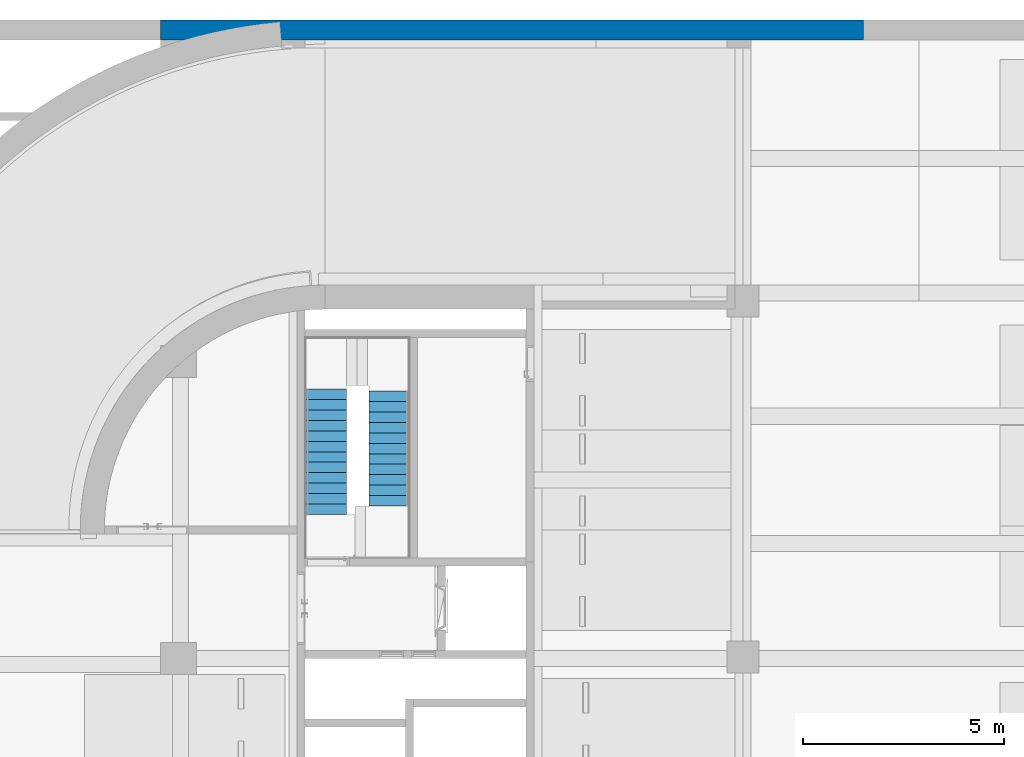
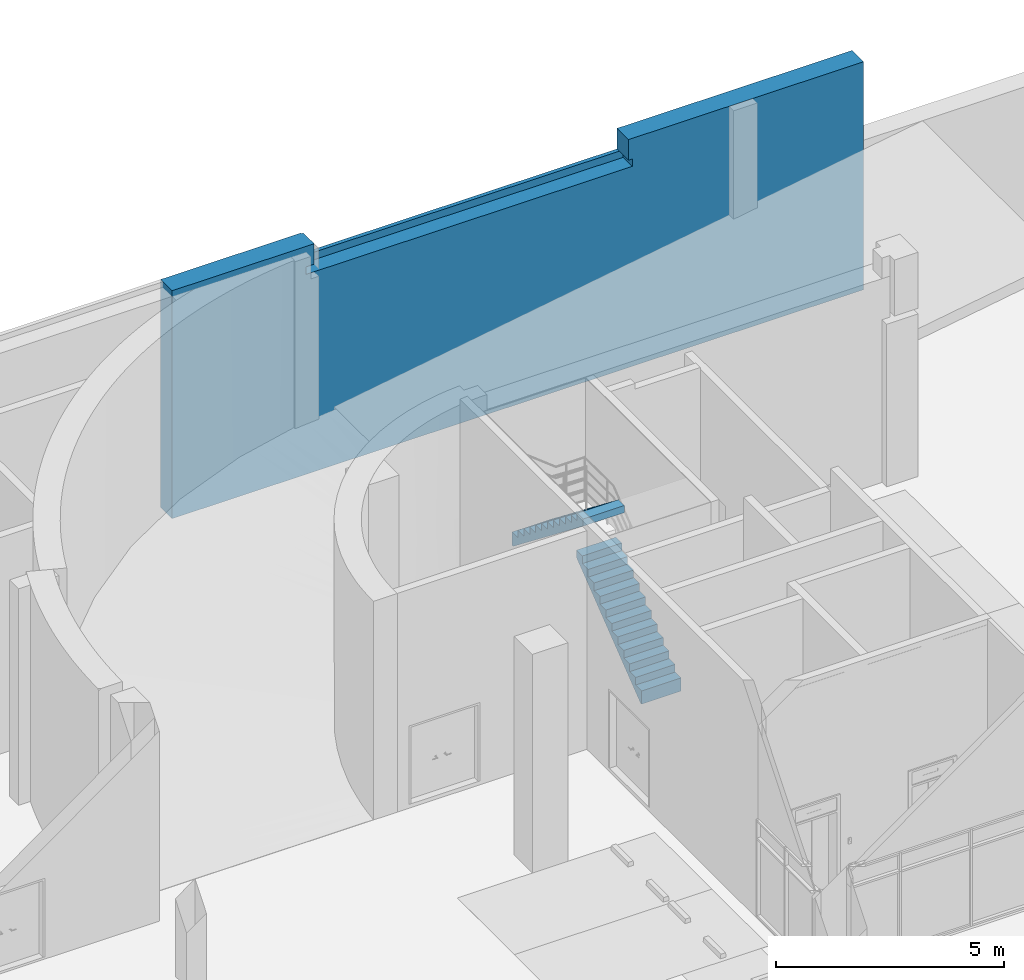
# One storey, part 25 of 29: 2 stair flights, 1 wall, 1 element without a shape of its own.
"""IFC2X3 building model written with IfcOpenShell, lengths in millimetres."""

from ifc_helpers import new_model, entity, si_unit, converted_unit, derived_unit, direction, frame, origin, place, context, subcontext, project, spatial, faceted_brep, material, layer, layer_set, type_object, element, aggregate, save


model = new_model("IFC2X3")

# Units and contexts
model_context = context("Model", 3, precision=0.01, world=origin(), true_north=direction((6.123031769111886e-17, 1.0)))
body_context = subcontext(model_context, "Body", "Model", "MODEL_VIEW")
ifc_project = project(units=[si_unit("LENGTHUNIT", "METRE", prefix="MILLI"), si_unit("AREAUNIT", "SQUARE_METRE"), si_unit("VOLUMEUNIT", "CUBIC_METRE"), converted_unit("PLANEANGLEUNIT", "DEGREE", entity("IfcRatioMeasure", 0.017453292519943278), si_unit("PLANEANGLEUNIT", "RADIAN"), dimensions=[0, 0, 0, 0, 0, 0, 0]), si_unit("MASSUNIT", "GRAM", prefix="KILO"), derived_unit("MASSDENSITYUNIT", [(si_unit("MASSUNIT", "GRAM", prefix="KILO"), 1), (si_unit("LENGTHUNIT", "METRE"), -3)]), derived_unit("MOMENTOFINERTIAUNIT", [(si_unit("LENGTHUNIT", "METRE"), 4)]), si_unit("TIMEUNIT", "SECOND"), si_unit("FREQUENCYUNIT", "HERTZ"), si_unit("THERMODYNAMICTEMPERATUREUNIT", "DEGREE_CELSIUS"), derived_unit("THERMALTRANSMITTANCEUNIT", [(si_unit("MASSUNIT", "GRAM", prefix="KILO"), 1), (si_unit("THERMODYNAMICTEMPERATUREUNIT", "KELVIN"), -1), (si_unit("TIMEUNIT", "SECOND"), -3)]), derived_unit("VOLUMETRICFLOWRATEUNIT", [(si_unit("LENGTHUNIT", "METRE"), 3), (si_unit("TIMEUNIT", "SECOND"), -1)]), derived_unit("MASSFLOWRATEUNIT", [(si_unit("MASSUNIT", "GRAM", prefix="KILO"), 1), (si_unit("TIMEUNIT", "SECOND"), -1)]), derived_unit("ROTATIONALFREQUENCYUNIT", [(si_unit("TIMEUNIT", "SECOND"), -1)]), si_unit("ELECTRICCURRENTUNIT", "AMPERE"), si_unit("ELECTRICVOLTAGEUNIT", "VOLT"), si_unit("POWERUNIT", "WATT"), si_unit("FORCEUNIT", "NEWTON", prefix="KILO"), si_unit("ILLUMINANCEUNIT", "LUX"), si_unit("LUMINOUSFLUXUNIT", "LUMEN"), si_unit("LUMINOUSINTENSITYUNIT", "CANDELA"), derived_unit("USERDEFINED", [(si_unit("MASSUNIT", "GRAM", prefix="KILO"), -1), (si_unit("LENGTHUNIT", "METRE"), -2), (si_unit("TIMEUNIT", "SECOND"), 3), (si_unit("LUMINOUSFLUXUNIT", "LUMEN"), 1)]), derived_unit("SOUNDPOWERUNIT", [(si_unit("MASSUNIT", "GRAM", prefix="KILO"), 1), (si_unit("LENGTHUNIT", "METRE"), 2), (si_unit("TIMEUNIT", "SECOND"), -3)]), derived_unit("SOUNDPRESSUREUNIT", [(si_unit("MASSUNIT", "GRAM", prefix="KILO"), 1), (si_unit("LENGTHUNIT", "METRE"), -1), (si_unit("TIMEUNIT", "SECOND"), -2)]), derived_unit("LINEARVELOCITYUNIT", [(si_unit("LENGTHUNIT", "METRE"), 1), (si_unit("TIMEUNIT", "SECOND"), -1)]), si_unit("PRESSUREUNIT", "PASCAL"), derived_unit("USERDEFINED", [(si_unit("LENGTHUNIT", "METRE"), -2), (si_unit("MASSUNIT", "GRAM", prefix="KILO"), 1), (si_unit("TIMEUNIT", "SECOND"), -2)]), derived_unit("LINEARFORCEUNIT", [(si_unit("MASSUNIT", "GRAM", prefix="KILO"), 1), (si_unit("LENGTHUNIT", "METRE"), 1), (si_unit("TIMEUNIT", "SECOND"), -2), (si_unit("LENGTHUNIT", "METRE"), -1)]), derived_unit("PLANARFORCEUNIT", [(si_unit("MASSUNIT", "GRAM", prefix="KILO"), 1), (si_unit("LENGTHUNIT", "METRE"), 1), (si_unit("TIMEUNIT", "SECOND"), -2), (si_unit("LENGTHUNIT", "METRE"), -2)])], contexts=[model_context])

# Site, building, storey
site_placement = place(None, frame((-14167.972527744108, -657.2125860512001, 0.0)))
site = spatial("IfcSite", under=ifc_project, at=site_placement, Name="Default", CompositionType="ELEMENT")
building_placement = place(site_placement, origin())
building = spatial("IfcBuilding", under=site, at=building_placement, Name="Sample Building", CompositionType="ELEMENT")
storey_placement = place(building_placement, frame((0.0, 0.0, -6100.0)))
storey = spatial("IfcBuildingStorey", under=building, at=storey_placement, Name="지하1층", CompositionType="ELEMENT", Elevation=-6099.999999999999)

# Wall
ifc_material = material(Name="KBIMS-콘크리트")
ifc_layer = layer(ifc_material, 500.00000000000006)
ifc_layer_set = layer_set([ifc_layer], Name="기본 벽:WA111-철근콘크리트구조 벽 500mm_BW4")
wall_type = type_object("IfcWallType", Name="기본 벽:WA111-철근콘크리트구조 벽 500mm_BW4", PredefinedType="STANDARD", material=ifc_layer_set)
wall_placement = place(storey_placement, frame((26667.97249113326, 35607.21230798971, 0.0)))
element("IfcWall", 1, at=wall_placement, inside=storey, type_object=wall_type, Name="기본 벽:WA111-철근콘크리트구조 벽 500mm_BW4", ObjectType="기본 벽:WA111-철근콘크리트구조 벽 500mm_BW4", context=body_context, shape_type="Brep", body=[
    faceted_brep([(17499.991307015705, -250.0, 0.0), (17499.991307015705, -250.0, 4000.0), (17499.991307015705, -250.0, 6100.0), (11550.0, -250.0, 6100.0), (11550.0, -250.0, 5550.0), (11650.0, -250.0, 5550.0), (11650.0, -250.0, 5350.0), (6575.273407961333, -250.0, 5350.0), (6175.273407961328, -250.0, 5350.0), (6099.97395765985, -250.0, 5350.0), (3599.973921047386, -250.0, 5350.0), (3398.153323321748, -250.0, 5350.0), (3398.1533233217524, -250.0, 5550.0), (3598.153323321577, -250.0, 5550.0), (3599.9912704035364, -250.0, 5550.0), (3599.9912704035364, -250.0, 6100.0), (3598.153323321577, -250.0, 6100.0), (0.0, -250.0, 6100.0), (0.0, -250.0, 5950.0), (0.0, -250.0, 0.0), (571.5442471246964, -250.0, 0.0), (3007.7081708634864, -250.0, 0.0), (3599.973921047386, -250.0, 0.0), (14099.973957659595, -250.0, 0.0), (14699.973957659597, -250.0, 0.0), (17499.991307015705, 250.0, 4000.0), (17499.991307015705, 250.0, 0.0), (0.0, 250.0, 0.0), (0.0, 250.0, 6100.0), (3550.0, 250.0, 6100.0), (3550.0, 250.0, 5550.0), (11550.0, 250.0, 5550.0), (11550.0, 250.0, 6100.0), (17499.991307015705, 250.0, 6100.0), (0.0, 149.99998715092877, 6100.0), (3550.0, 224.99998715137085, 5550.0), (3599.9912704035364, 224.99998715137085, 5550.0), (3599.9912704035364, 149.9999871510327, 5550.0), (11550.0, 149.9999871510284, 5550.0), (3599.9912704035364, 224.99998715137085, 6100.0), (3550.0, 224.99998715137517, 6100.0), (11550.0, 147.69999999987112, 5550.0), (11650.0, 149.9999871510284, 5350.0), (3398.1533233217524, 149.9999871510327, 5350.0), (3398.1533233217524, 149.9999871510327, 5550.0), (11650.0, 149.9999871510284, 5550.0)], [[[0, 1, 2, 3, 4, 5, 6, 7, 8, 9, 10, 11, 12, 13, 14, 15, 16, 17, 18, 19, 20, 21, 22, 23, 24]], [[25, 26, 27, 28, 29, 30, 31, 32, 33]], [[1, 0, 26, 25, 33, 2]], [[20, 19, 27, 26, 0, 24, 23, 22, 21]], [[18, 17, 34, 28, 27, 19]], [[2, 33, 32, 3]], [[31, 30, 35, 36, 37, 38]], [[16, 15, 39, 40, 29, 28, 34, 17]], [[4, 3, 32, 31, 38, 41]], [[15, 14, 37, 36, 39]], [[36, 35, 40, 39]], [[30, 29, 40, 35]], [[7, 6, 42, 43, 11, 10, 9, 8]], [[13, 12, 44, 37, 14]], [[6, 5, 45, 42]], [[12, 11, 43, 44]], [[38, 37, 44, 43, 42, 45]], [[5, 4, 41, 38, 45]]]),
])

# Stair, stair flights
stair_placement = place(storey_placement, origin())
stair = element("IfcStair", 2, at=stair_placement, inside=storey, Name="현장타설 계단:계단", ObjectType="현장타설 계단:ST111-철근콘크리트구조 계단 (U형)", ShapeType="NOTDEFINED")
stair_flight_type_1 = type_object("IfcStairFlightType", Name="일체형 계단진행:일체형 계단진행 150mm_철근콘크리트", PredefinedType="STRAIGHT")
stair_flight_1_placement = place(stair_placement, frame((31856.17253642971, 23757.212278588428, 0.0)))
stair_flight_1 = element("IfcStairFlight", 3, at=stair_flight_1_placement, type_object=stair_flight_type_1, material=ifc_material, Name="현장타설 계단:계단:5961117 Run 2", ObjectType="일체형 계단진행:일체형 계단진행 150mm_철근콘크리트", NumberOfRiser=12, NumberOfTreads=11, RiserHeight=0.6671041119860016, TreadLength=0.8530183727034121, context=body_context, shape_type="Brep", body=[
    faceted_brep([(1000.0, 260.0, 610.0), (0.0, 260.0, 610.0), (0.0, 51.68901629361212, 610.0), (0.0, 0.0, 610.0), (223.4889709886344, 0.0, 610.0), (1000.0, 0.0, 610.0), (1000.0, 51.68901629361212, 610.0), (0.0, 260.0, 419.5765385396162), (0.0, 51.68901629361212, 256.6666666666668), (0.0, 0.0, 256.6666666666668), (223.4889709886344, 0.0, 256.6666666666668), (1000.0, 0.0, 256.6666666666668), (1000.0, 0.0, 406.6666666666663), (1000.0, 51.689016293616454, 256.6666666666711), (1000.0, 260.0, 419.57653853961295), (0.0, 520.0, 813.3333333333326), (0.0, 260.0, 813.3333333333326), (1000.0, 260.0, 813.3333333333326), (1000.0, 520.0, 813.3333333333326), (0.0, 520.0, 622.9098718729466), (1000.0, 520.0, 622.9098718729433), (0.0, 780.0, 1016.6666666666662), (0.0, 520.0, 1016.6666666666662), (1000.0, 520.0, 1016.6666666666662), (1000.0, 780.0, 1016.6666666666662), (0.0, 780.0, 826.2432052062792), (1000.0, 780.0, 826.2432052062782), (0.0, 1040.0, 1220.0), (0.0, 780.0, 1220.0), (1000.0, 780.0, 1220.0), (1000.0, 1040.0, 1220.0), (0.0, 1040.0, 1029.5765385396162), (1000.0, 1040.0, 1029.5765385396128), (0.0, 1300.0, 1423.3333333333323), (0.0, 1040.0, 1423.3333333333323), (1000.0, 1040.0, 1423.3333333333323), (1000.0, 1300.0, 1423.3333333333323), (0.0, 1300.0, 1232.9098718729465), (1000.0, 1300.0, 1232.9098718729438), (0.0, 1560.0, 1626.666666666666), (0.0, 1300.0, 1626.666666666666), (1000.0, 1300.0, 1626.666666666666), (1000.0, 1560.0, 1626.666666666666), (0.0, 1560.0, 1436.24320520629), (1000.0, 1560.0, 1436.2432052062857), (0.0, 1820.0, 1830.0), (0.0, 1560.0, 1830.0), (1000.0, 1560.0, 1830.0), (1000.0, 1820.0, 1830.0), (0.0, 1820.0, 1639.576538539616), (1000.0, 1820.0, 1639.5765385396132), (0.0, 2080.0, 2033.3333333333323), (0.0, 1820.0, 2033.3333333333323), (1000.0, 1820.0, 2033.3333333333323), (1000.0, 2080.0, 2033.3333333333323), (0.0, 2080.0, 1842.9098718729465), (1000.0, 2080.0, 1842.9098718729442), (0.0, 2340.0, 2236.666666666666), (0.0, 2080.0, 2236.666666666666), (1000.0, 2080.0, 2236.666666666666), (1000.0, 2340.0, 2236.666666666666), (0.0, 2340.0, 2046.2432052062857), (1000.0, 2340.0, 2046.243205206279), (0.0, 2600.0, 2440.0), (0.0, 2340.0, 2440.0), (1000.0, 2340.0, 2440.0), (1000.0, 2600.0, 2440.0), (0.0, 2600.0, 2249.576538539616), (1000.0, 2600.0, 2249.57653853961), (0.0, 2860.0, 2643.333333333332), (0.0, 2600.0, 2643.333333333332), (1000.0, 2600.0, 2643.333333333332), (1000.0, 2860.0, 2643.333333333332), (0.0, 2860.0, 2452.9098718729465), (1000.0, 2860.0, 2452.909871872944)], [[[0, 1, 2, 3, 4, 5, 6]], [[1, 7, 8, 9, 3, 2]], [[4, 3, 9, 10, 11, 12, 5]], [[5, 12, 11, 13, 14, 0, 6]], [[15, 16, 17, 18]], [[16, 15, 19, 7, 1]], [[1, 0, 17, 16]], [[18, 17, 0, 14, 20]], [[21, 22, 23, 24]], [[22, 21, 25, 19, 15]], [[15, 18, 23, 22]], [[24, 23, 18, 20, 26]], [[27, 28, 29, 30]], [[28, 27, 31, 25, 21]], [[21, 24, 29, 28]], [[30, 29, 24, 26, 32]], [[33, 34, 35, 36]], [[34, 33, 37, 31, 27]], [[27, 30, 35, 34]], [[36, 35, 30, 32, 38]], [[39, 40, 41, 42]], [[40, 39, 43, 37, 33]], [[33, 36, 41, 40]], [[42, 41, 36, 38, 44]], [[45, 46, 47, 48]], [[46, 45, 49, 43, 39]], [[39, 42, 47, 46]], [[48, 47, 42, 44, 50]], [[51, 52, 53, 54]], [[52, 51, 55, 49, 45]], [[45, 48, 53, 52]], [[54, 53, 48, 50, 56]], [[57, 58, 59, 60]], [[58, 57, 61, 55, 51]], [[51, 54, 59, 58]], [[60, 59, 54, 56, 62]], [[63, 64, 65, 66]], [[64, 63, 67, 61, 57]], [[57, 60, 65, 64]], [[66, 65, 60, 62, 68]], [[69, 70, 71, 72]], [[70, 69, 73, 67, 63]], [[63, 66, 71, 70]], [[72, 71, 66, 68, 74]], [[69, 72, 74, 73]], [[13, 8, 7, 19, 25, 31, 37, 43, 49, 55, 61, 67, 73, 74, 68, 62, 56, 50, 44, 38, 32, 26, 20, 14]], [[8, 13, 11, 10, 9]]]),
])
stair_flight_type_2 = type_object("IfcStairFlightType", Name="일체형 계단진행:일체형 계단진행 150mm_철근콘크리트", PredefinedType="STRAIGHT")
stair_flight_2_placement = place(stair_placement, frame((30256.12581445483, 23547.17762773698, 0.0)))
stair_flight_2 = element("IfcStairFlight", 4, at=stair_flight_2_placement, type_object=stair_flight_type_2, material=ifc_material, Name="현장타설 계단:계단:5961117 Run 4", ObjectType="일체형 계단진행:일체형 계단진행 150mm_철근콘크리트", NumberOfRiser=13, NumberOfTreads=12, RiserHeight=0.6671041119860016, TreadLength=0.8530183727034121, context=body_context, shape_type="Brep", body=[
    faceted_brep([(1040.0233609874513, 3120.0, 3660.0), (0.0, 3120.0, 3660.0), (0.0, 3068.310983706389, 3660.0), (0.0, 2860.0, 3660.0), (1040.0233609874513, 2860.0, 3660.0), (1040.0233609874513, 3068.310983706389, 3660.0), (1040.0233609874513, 2860.0, 3469.5765385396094), (1040.0233609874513, 3068.310983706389, 3306.666666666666), (1040.0233609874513, 3120.0, 3306.666666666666), (1040.0233609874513, 3120.0, 3456.666666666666), (0.0, 3120.0, 3306.666666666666), (0.0, 3120.0, 3456.666666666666), (0.0, 3068.310983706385, 3306.6666666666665), (0.0, 2860.0, 3469.5765385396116), (1040.0233609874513, 2600.0, 3863.333333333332), (1040.0233609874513, 2860.0, 3863.333333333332), (0.0, 2860.0, 3863.333333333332), (0.0, 2600.0, 3863.333333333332), (1040.0233609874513, 2600.0, 3672.909871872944), (0.0, 2600.0, 3672.909871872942), (1040.0233609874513, 2340.0, 4066.666666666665), (1040.0233609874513, 2600.0, 4066.666666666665), (0.0, 2600.0, 4066.666666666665), (0.0, 2340.0, 4066.666666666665), (1040.0233609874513, 2340.0, 3876.243205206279), (0.0, 2340.0, 3876.243205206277), (1040.0233609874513, 2080.0, 4270.0), (1040.0233609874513, 2340.0, 4270.0), (0.0, 2340.0, 4270.0), (0.0, 2080.0, 4270.0), (1040.0233609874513, 2080.0, 4079.5765385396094), (0.0, 2080.0, 4079.5765385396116), (1040.0233609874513, 1820.0, 4473.333333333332), (1040.0233609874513, 2080.0, 4473.333333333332), (0.0, 2080.0, 4473.333333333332), (0.0, 1820.0, 4473.333333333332), (1040.0233609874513, 1820.0, 4282.909871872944), (0.0, 1820.0, 4282.909871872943), (1040.0233609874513, 1560.0, 4676.666666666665), (1040.0233609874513, 1820.0, 4676.666666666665), (0.0, 1820.0, 4676.666666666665), (0.0, 1560.0, 4676.666666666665), (1040.0233609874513, 1560.0, 4486.243205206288), (0.0, 1560.0, 4486.243205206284), (1040.023360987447, 1300.0, 4880.0), (1040.023360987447, 1560.0, 4880.0), (0.0, 1560.0, 4880.0), (0.0, 1300.0, 4880.0), (1040.023360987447, 1300.0, 4689.5765385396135), (0.0, 1300.0, 4689.576538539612), (1040.023360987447, 1040.0, 5083.333333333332), (1040.023360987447, 1300.0, 5083.333333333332), (0.0, 1300.0, 5083.333333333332), (0.0, 1040.0, 5083.333333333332), (1040.023360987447, 1040.0, 4892.909871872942), (0.0, 1040.0, 4892.909871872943), (1040.023360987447, 780.0, 5286.666666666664), (1040.023360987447, 1040.0, 5286.666666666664), (0.0, 1040.0, 5286.666666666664), (0.0, 780.0, 5286.666666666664), (1040.023360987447, 780.0, 5096.243205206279), (0.0, 780.0, 5096.243205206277), (1040.023360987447, 520.0, 5490.0), (1040.023360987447, 780.0, 5490.0), (0.0, 780.0, 5490.0), (0.0, 520.0, 5490.0), (1040.023360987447, 520.0, 5299.576538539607), (0.0, 520.0, 5299.576538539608), (1040.023360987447, 260.0, 5693.333333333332), (1040.023360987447, 520.0, 5693.333333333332), (0.0, 520.0, 5693.333333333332), (0.0, 260.0, 5693.333333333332), (1040.023360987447, 260.0, 5502.909871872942), (0.0, 260.0, 5502.909871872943), (1040.023360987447, 0.0, 5896.666666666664), (1040.023360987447, 260.0, 5896.666666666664), (0.0, 260.0, 5896.666666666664), (0.0, 0.0, 5896.666666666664), (1040.023360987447, 0.0, 5706.243205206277), (0.0, 0.0, 5706.243205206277)], [[[0, 1, 2, 3, 4, 5]], [[4, 6, 7, 8, 9, 0, 5]], [[1, 0, 9, 8, 10, 11]], [[1, 11, 10, 12, 13, 3, 2]], [[14, 15, 16, 17]], [[15, 14, 18, 6, 4]], [[16, 15, 4, 3]], [[17, 16, 3, 13, 19]], [[20, 21, 22, 23]], [[21, 20, 24, 18, 14]], [[22, 21, 14, 17]], [[23, 22, 17, 19, 25]], [[26, 27, 28, 29]], [[27, 26, 30, 24, 20]], [[28, 27, 20, 23]], [[29, 28, 23, 25, 31]], [[32, 33, 34, 35]], [[33, 32, 36, 30, 26]], [[34, 33, 26, 29]], [[35, 34, 29, 31, 37]], [[38, 39, 40, 41]], [[39, 38, 42, 36, 32]], [[40, 39, 32, 35]], [[41, 40, 35, 37, 43]], [[44, 45, 46, 47]], [[45, 44, 48, 42, 38]], [[46, 45, 38, 41]], [[47, 46, 41, 43, 49]], [[50, 51, 52, 53]], [[51, 50, 54, 48, 44]], [[52, 51, 44, 47]], [[53, 52, 47, 49, 55]], [[56, 57, 58, 59]], [[57, 56, 60, 54, 50]], [[58, 57, 50, 53]], [[59, 58, 53, 55, 61]], [[62, 63, 64, 65]], [[63, 62, 66, 60, 56]], [[64, 63, 56, 59]], [[65, 64, 59, 61, 67]], [[68, 69, 70, 71]], [[69, 68, 72, 66, 62]], [[70, 69, 62, 65]], [[71, 70, 65, 67, 73]], [[74, 75, 76, 77]], [[75, 74, 78, 72, 68]], [[76, 75, 68, 71]], [[77, 76, 71, 73, 79]], [[74, 77, 79, 78]], [[12, 7, 6, 18, 24, 30, 36, 42, 48, 54, 60, 66, 72, 78, 79, 73, 67, 61, 55, 49, 43, 37, 31, 25, 19, 13]], [[7, 12, 10, 8]]]),
])
aggregate(stair, [stair_flight_1, stair_flight_2])

save(model, "model.ifc")
